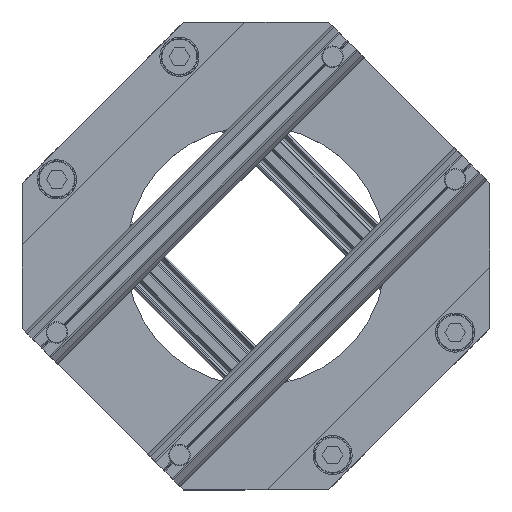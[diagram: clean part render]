
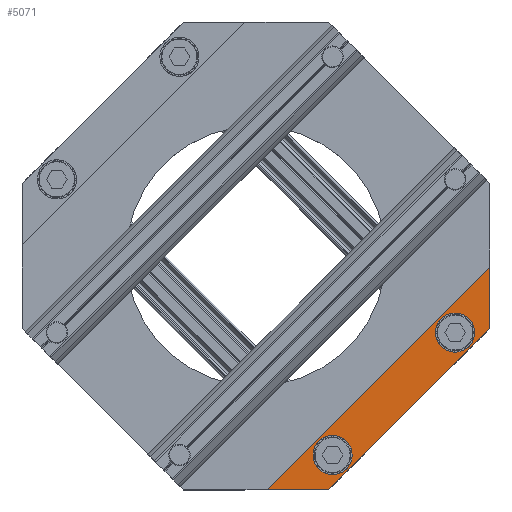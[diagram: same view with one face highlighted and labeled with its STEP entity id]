
A CAD part, top view. The second image highlights one B-rep face of the part: STEP entity #5071.
In plain terms, the highlighted planar face has unit normal (0, 0, 1).
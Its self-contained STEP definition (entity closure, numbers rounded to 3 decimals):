
#222 = CARTESIAN_POINT ( 'NONE',  ( -0.241, 5.164, 13.862 ) ) ;
#336 = CARTESIAN_POINT ( 'NONE',  ( 7.797, 6.131, 13.862 ) ) ;
#632 = FACE_BOUND ( 'NONE', #9555, .T. ) ;
#648 = CIRCLE ( 'NONE', #6530, 2.55 ) ;
#794 = ORIENTED_EDGE ( 'NONE', *, *, #3067, .T. ) ;
#890 = DIRECTION ( 'NONE',  ( 0., 0., -1. ) ) ;
#929 = ORIENTED_EDGE ( 'NONE', *, *, #7001, .T. ) ;
#962 = CARTESIAN_POINT ( 'NONE',  ( -31.075, -23.12, 13.862 ) ) ;
#979 = DIRECTION ( 'NONE',  ( 1., 0., 0. ) ) ;
#985 = CARTESIAN_POINT ( 'NONE',  ( -29.492, -31.158, 13.862 ) ) ;
#1102 = FACE_OUTER_BOUND ( 'NONE', #2179, .T. ) ;
#1240 = DIRECTION ( 'NONE',  ( 0., 0., 1. ) ) ;
#1362 = LINE ( 'NONE', #5991, #5035 ) ;
#1409 = DIRECTION ( 'NONE',  ( 0., 0., 1. ) ) ;
#1507 = VECTOR ( 'NONE', #8970, 1000. ) ;
#1711 = VECTOR ( 'NONE', #8526, 1000. ) ;
#1712 = ORIENTED_EDGE ( 'NONE', *, *, #5364, .F. ) ;
#2120 = DIRECTION ( 'NONE',  ( 0.707, 0.707, 0. ) ) ;
#2163 = VERTEX_POINT ( 'NONE', #3134 ) ;
#2179 = EDGE_LOOP ( 'NONE', ( #6781, #794, #9174, #929 ) ) ;
#2862 = EDGE_CURVE ( 'NONE', #3904, #9294, #1362, .T. ) ;
#2865 = CARTESIAN_POINT ( 'NONE',  ( 7.797, 6.131, 13.862 ) ) ;
#2947 = VERTEX_POINT ( 'NONE', #962 ) ;
#3027 = VERTEX_POINT ( 'NONE', #336 ) ;
#3067 = EDGE_CURVE ( 'NONE', #3027, #3904, #3435, .T. ) ;
#3104 = AXIS2_PLACEMENT_3D ( 'NONE', #5662, #1240, #6380 ) ;
#3134 = CARTESIAN_POINT ( 'NONE',  ( -25.975, -23.12, 13.862 ) ) ;
#3280 = CARTESIAN_POINT ( 'NONE',  ( 2.309, 5.164, 13.862 ) ) ;
#3350 = CARTESIAN_POINT ( 'NONE',  ( 7.797, 20.273, 13.862 ) ) ;
#3382 = CARTESIAN_POINT ( 'NONE',  ( -2.791, 5.164, 13.862 ) ) ;
#3435 = LINE ( 'NONE', #3350, #1711 ) ;
#3481 = EDGE_CURVE ( 'NONE', #2163, #2947, #648, .T. ) ;
#3686 = VECTOR ( 'NONE', #2120, 1000. ) ;
#3904 = VERTEX_POINT ( 'NONE', #8032 ) ;
#3989 = CARTESIAN_POINT ( 'NONE',  ( -0.241, 5.164, 13.862 ) ) ;
#4210 = VERTEX_POINT ( 'NONE', #3280 ) ;
#4249 = AXIS2_PLACEMENT_3D ( 'NONE', #4539, #890, #6044 ) ;
#4491 = CARTESIAN_POINT ( 'NONE',  ( -29.492, -31.158, 13.862 ) ) ;
#4539 = CARTESIAN_POINT ( 'NONE',  ( 0., 0., 13.862 ) ) ;
#4704 = DIRECTION ( 'NONE',  ( 1., 0., 0. ) ) ;
#4935 = AXIS2_PLACEMENT_3D ( 'NONE', #222, #5393, #979 ) ;
#4946 = EDGE_CURVE ( 'NONE', #7269, #4210, #5491, .T. ) ;
#5035 = VECTOR ( 'NONE', #6720, 1000. ) ;
#5071 = ADVANCED_FACE ( 'NONE', ( #6510, #632, #1102 ), #5295, .F. ) ;
#5155 = VERTEX_POINT ( 'NONE', #985 ) ;
#5203 = EDGE_CURVE ( 'NONE', #4210, #7269, #7563, .T. ) ;
#5256 = ORIENTED_EDGE ( 'NONE', *, *, #3481, .F. ) ;
#5271 = ORIENTED_EDGE ( 'NONE', *, *, #5203, .F. ) ;
#5282 = CARTESIAN_POINT ( 'NONE',  ( -43.634, -31.158, 13.862 ) ) ;
#5295 = PLANE ( 'NONE',  #4249 ) ;
#5364 = EDGE_CURVE ( 'NONE', #2947, #2163, #8387, .T. ) ;
#5393 = DIRECTION ( 'NONE',  ( 0., 0., 1. ) ) ;
#5491 = CIRCLE ( 'NONE', #4935, 2.55 ) ;
#5662 = CARTESIAN_POINT ( 'NONE',  ( -28.525, -23.12, 13.862 ) ) ;
#5828 = CARTESIAN_POINT ( 'NONE',  ( -28.525, -23.12, 13.862 ) ) ;
#5991 = CARTESIAN_POINT ( 'NONE',  ( -43.634, -31.158, 13.862 ) ) ;
#6044 = DIRECTION ( 'NONE',  ( -1., 0., 0. ) ) ;
#6380 = DIRECTION ( 'NONE',  ( 1., 0., 0. ) ) ;
#6510 = FACE_BOUND ( 'NONE', #7252, .T. ) ;
#6530 = AXIS2_PLACEMENT_3D ( 'NONE', #5828, #1409, #6561 ) ;
#6561 = DIRECTION ( 'NONE',  ( 1., 0., 0. ) ) ;
#6720 = DIRECTION ( 'NONE',  ( -0.707, -0.707, 0. ) ) ;
#6781 = ORIENTED_EDGE ( 'NONE', *, *, #8527, .T. ) ;
#7001 = EDGE_CURVE ( 'NONE', #9294, #5155, #7629, .T. ) ;
#7230 = AXIS2_PLACEMENT_3D ( 'NONE', #3989, #9162, #4704 ) ;
#7252 = EDGE_LOOP ( 'NONE', ( #5256, #1712 ) ) ;
#7269 = VERTEX_POINT ( 'NONE', #3382 ) ;
#7563 = CIRCLE ( 'NONE', #7230, 2.55 ) ;
#7613 = LINE ( 'NONE', #2865, #3686 ) ;
#7629 = LINE ( 'NONE', #4491, #1507 ) ;
#8032 = CARTESIAN_POINT ( 'NONE',  ( 7.797, 20.273, 13.862 ) ) ;
#8387 = CIRCLE ( 'NONE', #3104, 2.55 ) ;
#8526 = DIRECTION ( 'NONE',  ( 0., 1., 0. ) ) ;
#8527 = EDGE_CURVE ( 'NONE', #5155, #3027, #7613, .T. ) ;
#8926 = ORIENTED_EDGE ( 'NONE', *, *, #4946, .F. ) ;
#8970 = DIRECTION ( 'NONE',  ( 1., 0., 0. ) ) ;
#9162 = DIRECTION ( 'NONE',  ( 0., 0., 1. ) ) ;
#9174 = ORIENTED_EDGE ( 'NONE', *, *, #2862, .T. ) ;
#9294 = VERTEX_POINT ( 'NONE', #5282 ) ;
#9555 = EDGE_LOOP ( 'NONE', ( #5271, #8926 ) ) ;
